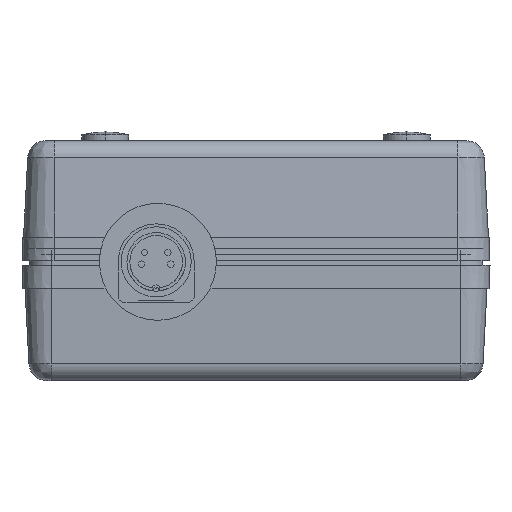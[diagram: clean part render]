
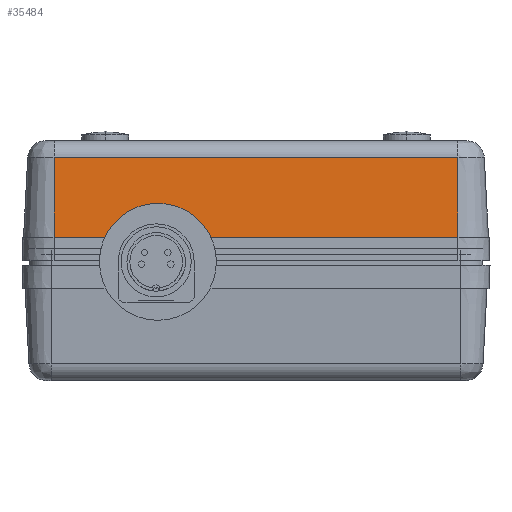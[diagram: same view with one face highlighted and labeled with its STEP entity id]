
A CAD part, front view. The second image highlights one B-rep face of the part: STEP entity #35484.
In plain terms, the highlighted planar face has unit normal (0, -0.999, 0.052).
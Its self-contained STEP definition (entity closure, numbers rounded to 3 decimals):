
#2329 = CARTESIAN_POINT ( 'NONE',  ( 34.53, -99.74, 3. ) ) ;
#2330 = CARTESIAN_POINT ( 'NONE',  ( -9.749, -99.74, 3. ) ) ;
#2331 = CARTESIAN_POINT ( 'NONE',  ( -10.249, -99.714, 3.5 ) ) ;
#2332 = CARTESIAN_POINT ( 'NONE',  ( -10.249, -99.646, 4.8 ) ) ;
#2333 = CARTESIAN_POINT ( 'NONE',  ( -10.749, -99.62, 5.3 ) ) ;
#2334 = CARTESIAN_POINT ( 'NONE',  ( -23.249, -99.62, 5.3 ) ) ;
#2335 = CARTESIAN_POINT ( 'NONE',  ( -23.749, -99.646, 4.8 ) ) ;
#2336 = CARTESIAN_POINT ( 'NONE',  ( -23.749, -99.714, 3.5 ) ) ;
#2337 = CARTESIAN_POINT ( 'NONE',  ( -24.249, -99.74, 3. ) ) ;
#2338 = CARTESIAN_POINT ( 'NONE',  ( -34.53, -99.74, 3. ) ) ;
#2357 = CARTESIAN_POINT ( 'NONE',  ( 34.53, -99.024, 16.657 ) ) ;
#2358 = CARTESIAN_POINT ( 'NONE',  ( -34.53, -99.024, 16.657 ) ) ;
#6508 = PLANE ( 'NONE',  #34863 ) ;
#6509 = CARTESIAN_POINT ( 'NONE',  ( -34.53, -99.95, -1. ) ) ;
#6510 = DIRECTION ( 'NONE',  ( 0., -0.999, 0.052 ) ) ;
#6511 = DIRECTION ( 'NONE',  ( 0., -0.052, -0.999 ) ) ;
#7853 = CARTESIAN_POINT ( 'NONE',  ( -34.53, -99.024, 16.657 ) ) ;
#7855 = DIRECTION ( 'NONE',  ( -1., 0., 0. ) ) ;
#16897 = FACE_OUTER_BOUND ( 'NONE', #39701, .T. ) ;
#18241 = VECTOR ( 'NONE', #7855, 1000. ) ;
#18395 =( BOUNDED_CURVE ( )  B_SPLINE_CURVE ( 3, ( #25156, #25158, #25159, #25160 ),
 .UNSPECIFIED., .F., .T. ) 
 B_SPLINE_CURVE_WITH_KNOTS ( ( 4, 4 ),
 ( 1.571, 3.142 ),
 .UNSPECIFIED. ) 
 CURVE ( )  GEOMETRIC_REPRESENTATION_ITEM ( )  RATIONAL_B_SPLINE_CURVE ( ( 1., 0.805, 0.805, 1. ) ) 
 REPRESENTATION_ITEM ( '' )  );
#18397 =( BOUNDED_CURVE ( )  B_SPLINE_CURVE ( 3, ( #25163, #25165, #25166, #25167 ),
 .UNSPECIFIED., .F., .T. ) 
 B_SPLINE_CURVE_WITH_KNOTS ( ( 4, 4 ),
 ( 1.571, 3.142 ),
 .UNSPECIFIED. ) 
 CURVE ( )  GEOMETRIC_REPRESENTATION_ITEM ( )  RATIONAL_B_SPLINE_CURVE ( ( 1., 0.805, 0.805, 1. ) ) 
 REPRESENTATION_ITEM ( '' )  );
#18400 =( BOUNDED_CURVE ( )  B_SPLINE_CURVE ( 3, ( #25170, #25171, #25173, #25174 ),
 .UNSPECIFIED., .F., .T. ) 
 B_SPLINE_CURVE_WITH_KNOTS ( ( 4, 4 ),
 ( 3.142, 4.712 ),
 .UNSPECIFIED. ) 
 CURVE ( )  GEOMETRIC_REPRESENTATION_ITEM ( )  RATIONAL_B_SPLINE_CURVE ( ( 1., 0.805, 0.805, 1. ) ) 
 REPRESENTATION_ITEM ( '' )  );
#18401 =( BOUNDED_CURVE ( )  B_SPLINE_CURVE ( 3, ( #25179, #25180, #25181, #25182 ),
 .UNSPECIFIED., .F., .T. ) 
 B_SPLINE_CURVE_WITH_KNOTS ( ( 4, 4 ),
 ( 0., 1.571 ),
 .UNSPECIFIED. ) 
 CURVE ( )  GEOMETRIC_REPRESENTATION_ITEM ( )  RATIONAL_B_SPLINE_CURVE ( ( 1., 0.805, 0.805, 1. ) ) 
 REPRESENTATION_ITEM ( '' )  );
#25151 = CARTESIAN_POINT ( 'NONE',  ( 34.53, -26251.379, -499000. ) ) ;
#25152 = DIRECTION ( 'NONE',  ( 0., -0.052, -0.999 ) ) ;
#25153 = CARTESIAN_POINT ( 'NONE',  ( -39.88, -99.74, 3. ) ) ;
#25154 = DIRECTION ( 'NONE',  ( 1., 0., 0. ) ) ;
#25156 = CARTESIAN_POINT ( 'NONE',  ( -10.249, -99.714, 3.5 ) ) ;
#25158 = CARTESIAN_POINT ( 'NONE',  ( -10.249, -99.729, 3.207 ) ) ;
#25159 = CARTESIAN_POINT ( 'NONE',  ( -10.042, -99.74, 3. ) ) ;
#25160 = CARTESIAN_POINT ( 'NONE',  ( -9.749, -99.74, 3. ) ) ;
#25161 = CARTESIAN_POINT ( 'NONE',  ( -10.249, -99.646, 4.8 ) ) ;
#25162 = DIRECTION ( 'NONE',  ( 0., -0.052, -0.999 ) ) ;
#25163 = CARTESIAN_POINT ( 'NONE',  ( -10.249, -99.646, 4.8 ) ) ;
#25165 = CARTESIAN_POINT ( 'NONE',  ( -10.249, -99.631, 5.093 ) ) ;
#25166 = CARTESIAN_POINT ( 'NONE',  ( -10.456, -99.62, 5.3 ) ) ;
#25167 = CARTESIAN_POINT ( 'NONE',  ( -10.749, -99.62, 5.3 ) ) ;
#25168 = CARTESIAN_POINT ( 'NONE',  ( -23.249, -99.62, 5.3 ) ) ;
#25169 = DIRECTION ( 'NONE',  ( 1., 0., 0. ) ) ;
#25170 = CARTESIAN_POINT ( 'NONE',  ( -23.249, -99.62, 5.3 ) ) ;
#25171 = CARTESIAN_POINT ( 'NONE',  ( -23.542, -99.62, 5.3 ) ) ;
#25173 = CARTESIAN_POINT ( 'NONE',  ( -23.749, -99.631, 5.093 ) ) ;
#25174 = CARTESIAN_POINT ( 'NONE',  ( -23.749, -99.646, 4.8 ) ) ;
#25175 = CARTESIAN_POINT ( 'NONE',  ( -23.749, -99.714, 3.5 ) ) ;
#25176 = DIRECTION ( 'NONE',  ( 0., 0.052, 0.999 ) ) ;
#25177 = CARTESIAN_POINT ( 'NONE',  ( -39.88, -99.74, 3. ) ) ;
#25178 = DIRECTION ( 'NONE',  ( 1., 0., 0. ) ) ;
#25179 = CARTESIAN_POINT ( 'NONE',  ( -24.249, -99.74, 3. ) ) ;
#25180 = CARTESIAN_POINT ( 'NONE',  ( -23.956, -99.74, 3. ) ) ;
#25181 = CARTESIAN_POINT ( 'NONE',  ( -23.749, -99.729, 3.207 ) ) ;
#25182 = CARTESIAN_POINT ( 'NONE',  ( -23.749, -99.714, 3.5 ) ) ;
#25186 = CARTESIAN_POINT ( 'NONE',  ( -34.53, -99.95, -1. ) ) ;
#25187 = DIRECTION ( 'NONE',  ( 0., -0.052, -0.999 ) ) ;
#26303 = ORIENTED_EDGE ( 'NONE', *, *, #33445, .T. ) ;
#26305 = ORIENTED_EDGE ( 'NONE', *, *, #33444, .T. ) ;
#26307 = ORIENTED_EDGE ( 'NONE', *, *, #33446, .T. ) ;
#26308 = ORIENTED_EDGE ( 'NONE', *, *, #33443, .F. ) ;
#26310 = ORIENTED_EDGE ( 'NONE', *, *, #33442, .T. ) ;
#26312 = ORIENTED_EDGE ( 'NONE', *, *, #33441, .F. ) ;
#26314 = ORIENTED_EDGE ( 'NONE', *, *, #33440, .T. ) ;
#26316 = ORIENTED_EDGE ( 'NONE', *, *, #33439, .T. ) ;
#26317 = ORIENTED_EDGE ( 'NONE', *, *, #33438, .T. ) ;
#26319 = ORIENTED_EDGE ( 'NONE', *, *, #33437, .F. ) ;
#26321 = ORIENTED_EDGE ( 'NONE', *, *, #30094, .T. ) ;
#26324 = ORIENTED_EDGE ( 'NONE', *, *, #33448, .T. ) ;
#26905 = LINE ( 'NONE', #7853, #18241 ) ;
#27664 = LINE ( 'NONE', #25151, #33392 ) ;
#27665 = LINE ( 'NONE', #25153, #33393 ) ;
#27666 = LINE ( 'NONE', #25161, #33394 ) ;
#27667 = LINE ( 'NONE', #25168, #33396 ) ;
#27668 = LINE ( 'NONE', #25175, #33397 ) ;
#27669 = LINE ( 'NONE', #25177, #33398 ) ;
#27670 = LINE ( 'NONE', #25186, #33400 ) ;
#30094 = EDGE_CURVE ( 'NONE', #36001, #36002, #26905, .T. ) ;
#33392 = VECTOR ( 'NONE', #25152, 1000. ) ;
#33393 = VECTOR ( 'NONE', #25154, 1000. ) ;
#33394 = VECTOR ( 'NONE', #25162, 1000. ) ;
#33396 = VECTOR ( 'NONE', #25169, 1000. ) ;
#33397 = VECTOR ( 'NONE', #25176, 1000. ) ;
#33398 = VECTOR ( 'NONE', #25178, 1000. ) ;
#33400 = VECTOR ( 'NONE', #25187, 1000. ) ;
#33437 = EDGE_CURVE ( 'NONE', #36001, #35973, #27664, .T. ) ;
#33438 = EDGE_CURVE ( 'NONE', #35974, #35973, #27665, .T. ) ;
#33439 = EDGE_CURVE ( 'NONE', #35975, #35974, #18395, .T. ) ;
#33440 = EDGE_CURVE ( 'NONE', #35976, #35975, #27666, .T. ) ;
#33441 = EDGE_CURVE ( 'NONE', #35976, #35977, #18397, .T. ) ;
#33442 = EDGE_CURVE ( 'NONE', #35978, #35977, #27667, .T. ) ;
#33443 = EDGE_CURVE ( 'NONE', #35978, #35979, #18400, .T. ) ;
#33444 = EDGE_CURVE ( 'NONE', #35980, #35979, #27668, .T. ) ;
#33445 = EDGE_CURVE ( 'NONE', #35982, #35981, #27669, .T. ) ;
#33446 = EDGE_CURVE ( 'NONE', #35981, #35980, #18401, .T. ) ;
#33448 = EDGE_CURVE ( 'NONE', #36002, #35982, #27670, .T. ) ;
#34863 = AXIS2_PLACEMENT_3D ( 'NONE', #6509, #6510, #6511 ) ;
#35484 = ADVANCED_FACE ( 'NONE', ( #16897 ), #6508, .T. ) ;
#35973 = VERTEX_POINT ( 'NONE', #2329 ) ;
#35974 = VERTEX_POINT ( 'NONE', #2330 ) ;
#35975 = VERTEX_POINT ( 'NONE', #2331 ) ;
#35976 = VERTEX_POINT ( 'NONE', #2332 ) ;
#35977 = VERTEX_POINT ( 'NONE', #2333 ) ;
#35978 = VERTEX_POINT ( 'NONE', #2334 ) ;
#35979 = VERTEX_POINT ( 'NONE', #2335 ) ;
#35980 = VERTEX_POINT ( 'NONE', #2336 ) ;
#35981 = VERTEX_POINT ( 'NONE', #2337 ) ;
#35982 = VERTEX_POINT ( 'NONE', #2338 ) ;
#36001 = VERTEX_POINT ( 'NONE', #2357 ) ;
#36002 = VERTEX_POINT ( 'NONE', #2358 ) ;
#39701 = EDGE_LOOP ( 'NONE', ( #26303, #26307, #26305, #26308, #26310, #26312, #26314, #26316, #26317, #26319, #26321, #26324 ) ) ;
